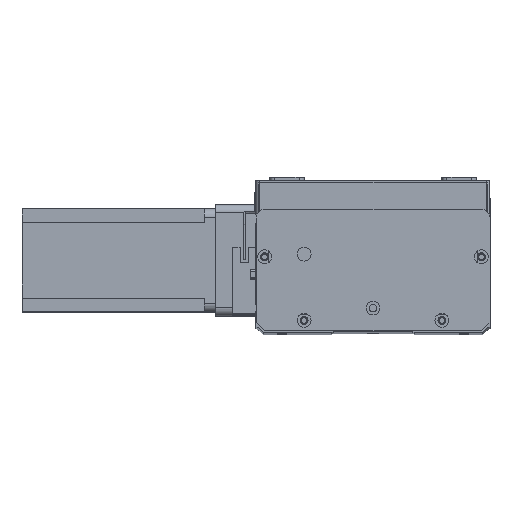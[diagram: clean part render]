
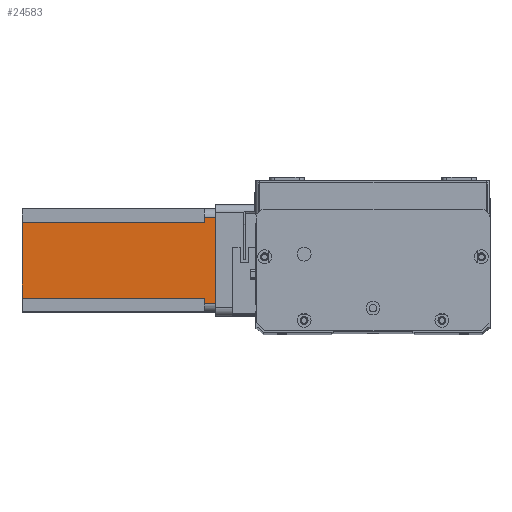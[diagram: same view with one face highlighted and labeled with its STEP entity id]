
A CAD part, top view. The second image highlights one B-rep face of the part: STEP entity #24583.
In plain terms, the highlighted planar face has unit normal (0, 0, 1) as drawn and (0, -1, 0) by its records, which use the part's own axes.
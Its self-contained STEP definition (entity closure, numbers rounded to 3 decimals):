
#330 = EDGE_CURVE ( 'NONE', #7241, #3424, #11531, .T. ) ;
#413 = ORIENTED_EDGE ( 'NONE', *, *, #22502, .F. ) ;
#590 = VERTEX_POINT ( 'NONE', #4723 ) ;
#1097 = VECTOR ( 'NONE', #24003, 1000. ) ;
#1229 = CARTESIAN_POINT ( 'NONE',  ( 5., 0., 0. ) ) ;
#2792 = LINE ( 'NONE', #10592, #12634 ) ;
#3424 = VERTEX_POINT ( 'NONE', #19903 ) ;
#3490 = CARTESIAN_POINT ( 'NONE',  ( 0., 0., -112.5 ) ) ;
#4122 = CARTESIAN_POINT ( 'NONE',  ( 52., 0., -6.5 ) ) ;
#4723 = CARTESIAN_POINT ( 'NONE',  ( 8., 0., -112.5 ) ) ;
#4916 = ORIENTED_EDGE ( 'NONE', *, *, #12683, .F. ) ;
#5453 = DIRECTION ( 'NONE',  ( 1., 0., 0. ) ) ;
#5716 = PLANE ( 'NONE',  #17447 ) ;
#5756 = VERTEX_POINT ( 'NONE', #23308 ) ;
#5777 = ORIENTED_EDGE ( 'NONE', *, *, #19421, .F. ) ;
#5865 = DIRECTION ( 'NONE',  ( 0., -1., 0. ) ) ;
#7241 = VERTEX_POINT ( 'NONE', #1229 ) ;
#7528 = ORIENTED_EDGE ( 'NONE', *, *, #14876, .T. ) ;
#8190 = LINE ( 'NONE', #24866, #14028 ) ;
#8309 = ORIENTED_EDGE ( 'NONE', *, *, #15054, .T. ) ;
#8460 = DIRECTION ( 'NONE',  ( 0., 0., 1. ) ) ;
#9543 = ORIENTED_EDGE ( 'NONE', *, *, #15236, .T. ) ;
#9918 = FACE_OUTER_BOUND ( 'NONE', #21897, .T. ) ;
#9961 = VERTEX_POINT ( 'NONE', #14021 ) ;
#10404 = CARTESIAN_POINT ( 'NONE',  ( 52., 0., -112.5 ) ) ;
#10592 = CARTESIAN_POINT ( 'NONE',  ( 8., 0., -112.5 ) ) ;
#10837 = CARTESIAN_POINT ( 'NONE',  ( 52., 0., -112.5 ) ) ;
#11531 = LINE ( 'NONE', #25330, #1097 ) ;
#12299 = LINE ( 'NONE', #3490, #22164 ) ;
#12566 = DIRECTION ( 'NONE',  ( 0., 0., 1. ) ) ;
#12634 = VECTOR ( 'NONE', #12566, 1000. ) ;
#12683 = EDGE_CURVE ( 'NONE', #590, #16311, #2792, .T. ) ;
#12872 = EDGE_CURVE ( 'NONE', #590, #16049, #12299, .T. ) ;
#13107 = DIRECTION ( 'NONE',  ( 0., 0., -1. ) ) ;
#13281 = CARTESIAN_POINT ( 'NONE',  ( 8., 0., -6.5 ) ) ;
#13786 = CARTESIAN_POINT ( 'NONE',  ( 52., 0., -6.5 ) ) ;
#14021 = CARTESIAN_POINT ( 'NONE',  ( 5., 0., -6.5 ) ) ;
#14028 = VECTOR ( 'NONE', #13107, 1000. ) ;
#14876 = EDGE_CURVE ( 'NONE', #23368, #5756, #16192, .T. ) ;
#15054 = EDGE_CURVE ( 'NONE', #5756, #3424, #17137, .T. ) ;
#15236 = EDGE_CURVE ( 'NONE', #7241, #9961, #8190, .T. ) ;
#15561 = VECTOR ( 'NONE', #22961, 1000. ) ;
#15701 = VECTOR ( 'NONE', #22657, 1000. ) ;
#16049 = VERTEX_POINT ( 'NONE', #10404 ) ;
#16192 = LINE ( 'NONE', #13786, #21473 ) ;
#16311 = VERTEX_POINT ( 'NONE', #13281 ) ;
#17137 = LINE ( 'NONE', #18435, #22354 ) ;
#17447 = AXIS2_PLACEMENT_3D ( 'NONE', #17643, #5865, #19651 ) ;
#17643 = CARTESIAN_POINT ( 'NONE',  ( 0., 0., -112.5 ) ) ;
#17739 = DIRECTION ( 'NONE',  ( 1., 0., 0. ) ) ;
#18435 = CARTESIAN_POINT ( 'NONE',  ( 55., 0., -112.5 ) ) ;
#19421 = EDGE_CURVE ( 'NONE', #16311, #9961, #20838, .T. ) ;
#19645 = ORIENTED_EDGE ( 'NONE', *, *, #12872, .T. ) ;
#19651 = DIRECTION ( 'NONE',  ( 0., 0., -1. ) ) ;
#19903 = CARTESIAN_POINT ( 'NONE',  ( 55., 0., 0. ) ) ;
#20838 = LINE ( 'NONE', #20998, #15561 ) ;
#20996 = LINE ( 'NONE', #10837, #15701 ) ;
#20998 = CARTESIAN_POINT ( 'NONE',  ( 8., 0., -6.5 ) ) ;
#21473 = VECTOR ( 'NONE', #17739, 1000. ) ;
#21897 = EDGE_LOOP ( 'NONE', ( #7528, #8309, #23203, #9543, #5777, #4916, #19645, #413 ) ) ;
#22164 = VECTOR ( 'NONE', #5453, 1000. ) ;
#22354 = VECTOR ( 'NONE', #8460, 1000. ) ;
#22502 = EDGE_CURVE ( 'NONE', #23368, #16049, #20996, .T. ) ;
#22657 = DIRECTION ( 'NONE',  ( 0., 0., -1. ) ) ;
#22961 = DIRECTION ( 'NONE',  ( -1., 0., 0. ) ) ;
#23203 = ORIENTED_EDGE ( 'NONE', *, *, #330, .F. ) ;
#23308 = CARTESIAN_POINT ( 'NONE',  ( 55., 0., -6.5 ) ) ;
#23368 = VERTEX_POINT ( 'NONE', #4122 ) ;
#24003 = DIRECTION ( 'NONE',  ( 1., 0., 0. ) ) ;
#24583 = ADVANCED_FACE ( 'NONE', ( #9918 ), #5716, .T. ) ;
#24866 = CARTESIAN_POINT ( 'NONE',  ( 5., 0., -112.5 ) ) ;
#25330 = CARTESIAN_POINT ( 'NONE',  ( 0., 0., 0. ) ) ;
